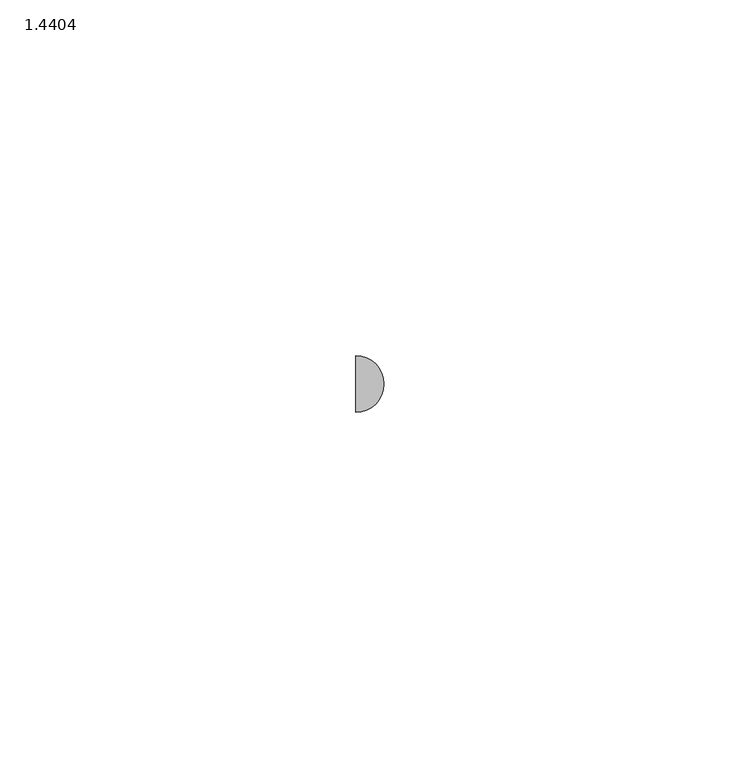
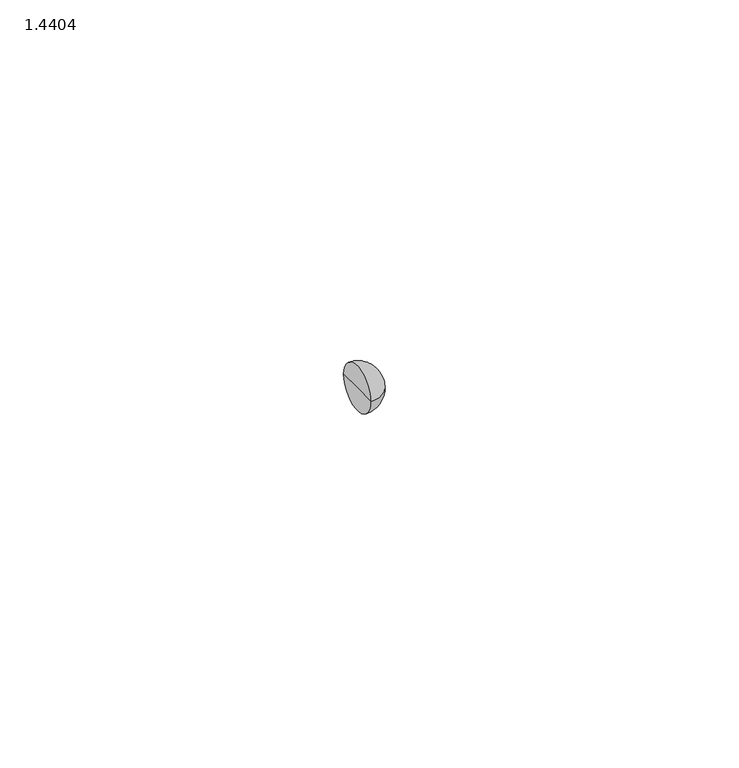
"""IFC4 building model written with IfcOpenShell, lengths in millimetres: pipe fitting geometry, PIF_ST_UN_ACO pipe double bend_ACO : 1.4404."""

from ifc_helpers import new_model, si_unit, point, frame, origin, place, context, project, spatial, circle_curve, ellipse_curve, trimmed, source, transform, mapped, element, save
from ifc_brep_helpers import plane_surface, revolved_surface, advanced_brep


def pipe_fitting_1_4404_e5c46f2f(model_context):
    return source(origin(), model_context, "Body", "AdvancedBrep", [
        advanced_brep(
        [(-162.2980784, -4.0, 0.0), (-162.2980784, 4.0, 0.0), (-158.2980784, 0.0, 0.0), (-162.2980784, 0.0, 0.0)],
        [
            (0, 1, circle_curve(frame((-162.2980784, 0.0, 0.0), z_axis=(1.0, 0.0, 0.0), x_axis=(0.0, 1.0, 0.0)), 4.0)),
            (1, 2, circle_curve(frame((-162.2980784, 0.0, 0.0), z_axis=(0.0, 0.0, -1.0), x_axis=(-1.0, 0.0, 0.0)), 4.0)),
            (2, 0, circle_curve(frame((-162.2980784, 0.0, 0.0), z_axis=(0.0, 0.0, -1.0), x_axis=(-1.0, 0.0, 0.0)), 4.0)),
            (1, 0, circle_curve(frame((-162.2980784, 0.0, 0.0), z_axis=(1.0, 0.0, 0.0), x_axis=(0.0, 1.0, 0.0)), 4.0)),
            (3, 1),
            (0, 3),
        ],
        [
            revolved_surface(trimmed(ellipse_curve(frame((-162.2980784, 0.0, 0.0), z_axis=(0.0, 0.0, 1.0), x_axis=(-1.0, 0.0, 0.0)), 4.0, 4.0), [point((-158.2980784, 0.0, 0.0))], [point((-162.2980784, 4.0, 0.0))], True, "CARTESIAN"), (-169.2897557, 0.0, 0.0), (-1.0, 0.0, 0.0)),
            plane_surface(frame((-162.2980784, 0.0, 0.0), z_axis=(-1.0, 0.0, 0.0), x_axis=(0.0, 1.0, 0.0))),
        ],
        [
            (0, [[1, 2, 3]]),
            (0, [[4, -3, -2]]),
            (1, [[5, -1, 6]]),
            (1, [[-6, -4, -5]]),
        ],
    ),
    ])


if __name__ == "__main__":
    model = new_model("IFC4")
    model_context = context("Model", 3, world=origin())
    ifc_project = project(units=[si_unit("LENGTHUNIT", "METRE", prefix="MILLI")], contexts=[model_context])
    site = spatial("IfcSite", under=ifc_project)
    building = spatial("IfcBuilding", under=site)
    placement = place(None, origin())
    pipe_fitting_1_4404_shape = pipe_fitting_1_4404_e5c46f2f(model_context)
    element("IfcPipeFitting", 1, ObjectType="PIF_ST_UN_ACO pipe double bend_ACO : 1.4404", at=placement, inside=building, context=model_context, shape_type="MappedRepresentation", body=[
        mapped(pipe_fitting_1_4404_shape, transform((0.0, 0.0, 0.0), x_axis=(1.0, 0.0, 0.0), y_axis=(0.0, 1.0, 0.0), z_axis=(0.0, 0.0, 1.0))),
    ])
    save(model, "model.ifc")
